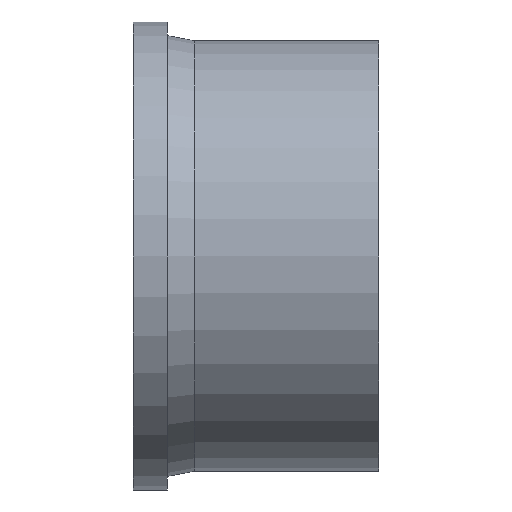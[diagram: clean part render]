
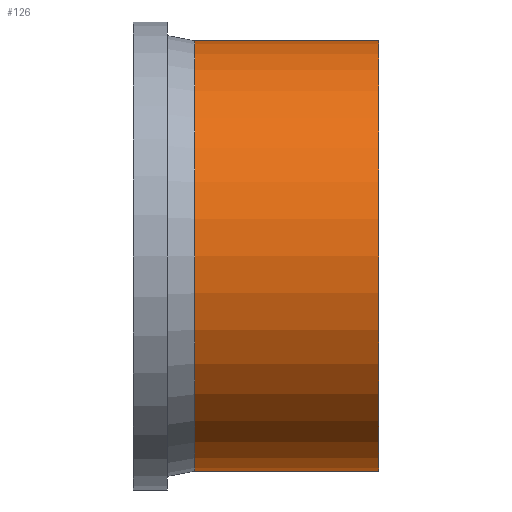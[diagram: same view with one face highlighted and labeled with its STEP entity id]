
A CAD part, front view. The second image highlights one B-rep face of the part: STEP entity #126.
In plain terms, the highlighted cylindrical face has radius 315 mm (diameter 630 mm), a full revolution.
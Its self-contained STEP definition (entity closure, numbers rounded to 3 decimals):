
#77=CARTESIAN_POINT('',(90.,315.,0.));
#78=VERTEX_POINT('',#77);
#79=CARTESIAN_POINT('',(90.,0.,0.));
#80=DIRECTION('',(1.,0.,0.));
#81=DIRECTION('',(0.,1.,0.));
#82=AXIS2_PLACEMENT_3D('',#79,#80,#81);
#83=CIRCLE('',#82,315.);
#84=EDGE_CURVE('',#78,#78,#83,.T.);
#102=CARTESIAN_POINT('',(360.,315.,0.));
#103=VERTEX_POINT('',#102);
#104=CARTESIAN_POINT('',(360.,0.,0.));
#105=DIRECTION('',(1.,0.,0.));
#106=DIRECTION('',(0.,1.,0.));
#107=AXIS2_PLACEMENT_3D('',#104,#105,#106);
#108=CIRCLE('',#107,315.);
#109=EDGE_CURVE('',#103,#103,#108,.T.);
#110=ORIENTED_EDGE('',*,*,#109,.F.);
#111=CARTESIAN_POINT('',(225.,315.,0.));
#112=DIRECTION('',(1.,0.,0.));
#113=VECTOR('',#112,315.);
#114=LINE('',#111,#113);
#115=EDGE_CURVE('',#78,#103,#114,.T.);
#116=ORIENTED_EDGE('',*,*,#115,.F.);
#117=ORIENTED_EDGE('',*,*,#84,.T.);
#118=ORIENTED_EDGE('',*,*,#115,.T.);
#119=EDGE_LOOP('',(#110,#116,#117,#118));
#120=FACE_OUTER_BOUND('',#119,.T.);
#121=CARTESIAN_POINT('',(225.,0.,0.));
#122=DIRECTION('',(1.,0.,0.));
#123=DIRECTION('',(0.,1.,0.));
#124=AXIS2_PLACEMENT_3D('',#121,#122,#123);
#125=CYLINDRICAL_SURFACE('',#124,315.);
#126=ADVANCED_FACE('',(#120),#125,.T.);
